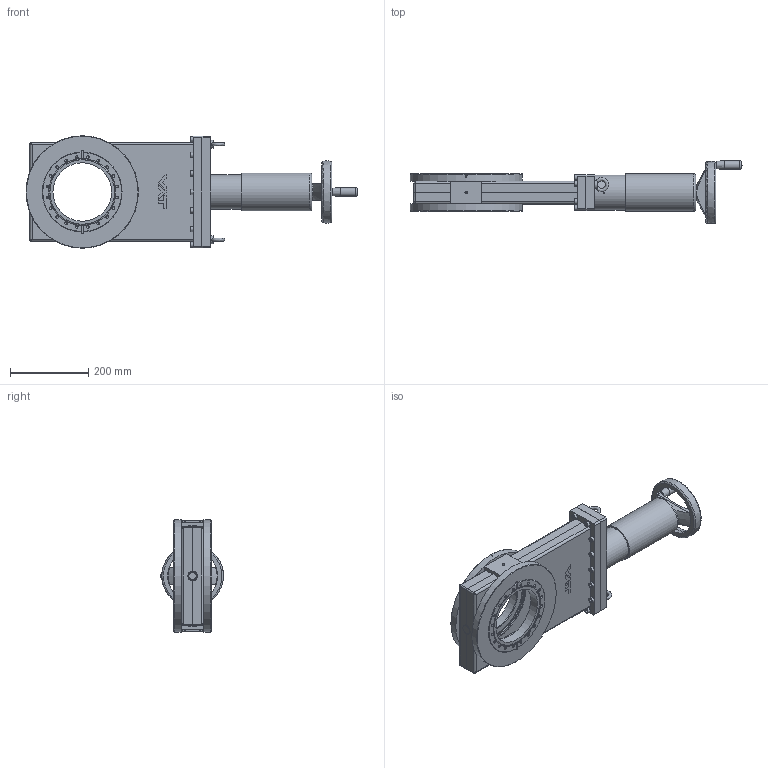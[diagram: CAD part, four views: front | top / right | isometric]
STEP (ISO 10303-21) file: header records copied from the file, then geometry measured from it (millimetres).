
FILE_DESCRIPTION(/* description */ (''),/* implementation_level */ '2;1');
FILE_NAME(/* name */ '1500558058_203.stp',/* time_stamp */ '2016-02-25T15:50:55+01:00',/* author */ (''),/* organization */ (''),/* preprocessor_version */ 'ST-DEVELOPER v15',/* originating_system */ 'SIEMENS PLM Software NX 9.0',/* authorisation */ '');
FILE_SCHEMA (('AP203_CONFIGURATION_CONTROLLED_3D_DESIGN_OF_MECHANICAL_PARTS_AND_ASSEMBLIES_MIM_LF { 1 0 10303 403 2 1 2}'));
Length unit declared in the file: millimetre
Products named in the file (17): 201994_1; 201995_1; 201961_1; 201962_1; 201974; 201977; n-6001-451.1; 540487; 542259; 80772-01.1; 82784-01.4; 83890-01.5; 224837.1; n-6033-403; 201965; 371682_MODEL; 831611
Assembly tree (32 placements, depth 4):
  831611
    371682_MODEL
      201965
        201994_1  x2
      201977
      201974  x2
      201962_1
      201961_1
      201995_1
    n-6033-403  x2
    224837.1  x14
    83890-01.5
    82784-01.4
    80772-01.1
    542259
    540487
    n-6001-451.1
Bounding box: 851.23 x 161.23 x 288.25 mm (x, y, z)
Volume: 3979332.3 mm3; surface area: 1200563.2 mm2
Topology: 60 solids, 60 shells, 811 faces, 1915 edges, 1251 vertices
Faces by surface type: plane 388, cylinder 257, cone 140, torus 18, bspline 7, sphere 1
Full cylindrical faces by diameter (mm): 3 x1, 4.8 x2, 4.96 x1, 5 x1, 5.006 x2, 5.6 x2, 6 x2, 6.4 x1, 6.66 x14, 6.7 x14, 6.8 x62, 7.906 x1, 8 x30, 8.5 x2, 9 x14, 9.333 x1, 9.85 x1, 13 x15, 14.1 x1, 18.95 x1, 20 x2, 23 x1, 24.974 x1, 26 x1, 30 x1, 30.05 x2, 31.769 x1, 39.55 x1, 40 x1, 80.2 x1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
Entity records: 19085 total; most frequent: CARTESIAN_POINT 3677, DIRECTION 2464, ORIENTED_EDGE 2016, EDGE_CURVE 1008, AXIS2_PLACEMENT_3D 1001, EDGE_LOOP 877, VERTEX_POINT 832, FACE_BOUND 687
